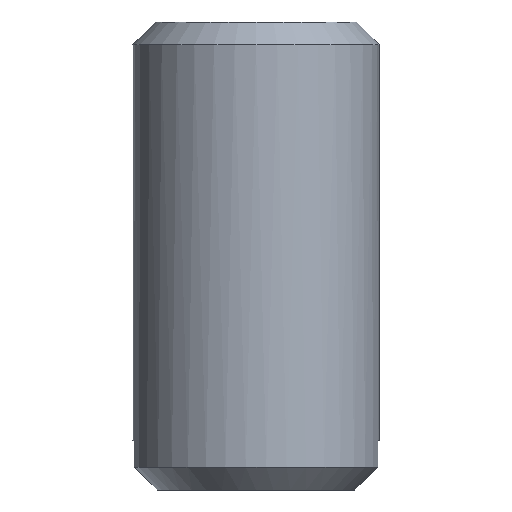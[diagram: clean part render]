
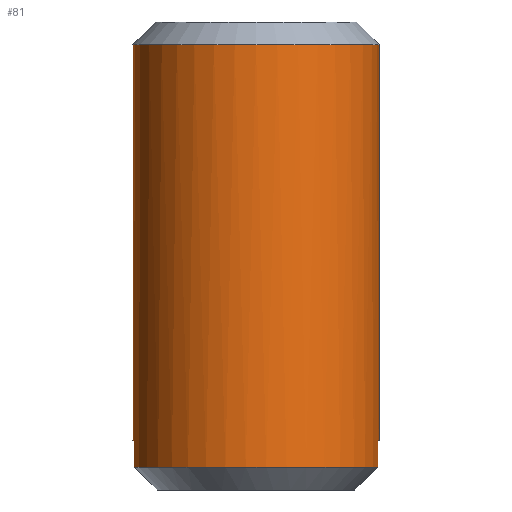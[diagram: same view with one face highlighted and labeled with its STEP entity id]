
A CAD part, front view. The second image highlights one B-rep face of the part: STEP entity #81.
In plain terms, the highlighted cylindrical face has radius 5 mm (diameter 10 mm), a full revolution.
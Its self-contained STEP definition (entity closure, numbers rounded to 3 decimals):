
#81 = ADVANCED_FACE( '', ( #104, #105 ), #106, .T. );
#104 = FACE_OUTER_BOUND( '', #133, .T. );
#105 = FACE_OUTER_BOUND( '', #134, .T. );
#106 = CYLINDRICAL_SURFACE( '', #135, 5. );
#133 = EDGE_LOOP( '', ( #184 ) );
#134 = EDGE_LOOP( '', ( #185, #186, #187, #188, #189, #190, #191, #192 ) );
#135 = AXIS2_PLACEMENT_3D( '', #193, #194, #195 );
#184 = ORIENTED_EDGE( '', *, *, #243, .F. );
#185 = ORIENTED_EDGE( '', *, *, #236, .F. );
#186 = ORIENTED_EDGE( '', *, *, #244, .T. );
#187 = ORIENTED_EDGE( '', *, *, #228, .F. );
#188 = ORIENTED_EDGE( '', *, *, #245, .T. );
#189 = ORIENTED_EDGE( '', *, *, #230, .F. );
#190 = ORIENTED_EDGE( '', *, *, #246, .T. );
#191 = ORIENTED_EDGE( '', *, *, #234, .F. );
#192 = ORIENTED_EDGE( '', *, *, #247, .T. );
#193 = CARTESIAN_POINT( '', ( 0., 0., 0. ) );
#194 = DIRECTION( '', ( 0., 0., -1. ) );
#195 = DIRECTION( '', ( 1., 0., 0. ) );
#228 = EDGE_CURVE( '', #251, #253, #254, .T. );
#230 = EDGE_CURVE( '', #255, #257, #258, .F. );
#234 = EDGE_CURVE( '', #263, #265, #266, .T. );
#236 = EDGE_CURVE( '', #267, #269, #270, .F. );
#243 = EDGE_CURVE( '', #280, #280, #281, .T. );
#244 = EDGE_CURVE( '', #267, #253, #282, .T. );
#245 = EDGE_CURVE( '', #251, #257, #283, .T. );
#246 = EDGE_CURVE( '', #255, #265, #284, .T. );
#247 = EDGE_CURVE( '', #263, #269, #285, .T. );
#251 = VERTEX_POINT( '', #289 );
#253 = VERTEX_POINT( '', #294 );
#254 = LINE( '', #295, #296 );
#255 = VERTEX_POINT( '', #297 );
#257 = VERTEX_POINT( '', #300 );
#258 = LINE( '', #301, #302 );
#263 = VERTEX_POINT( '', #311 );
#265 = VERTEX_POINT( '', #316 );
#266 = LINE( '', #317, #318 );
#267 = VERTEX_POINT( '', #319 );
#269 = VERTEX_POINT( '', #322 );
#270 = LINE( '', #323, #324 );
#280 = VERTEX_POINT( '', #338 );
#281 = CIRCLE( '', #339, 5. );
#282 = CIRCLE( '', #340, 5. );
#283 = CIRCLE( '', #341, 5. );
#284 = CIRCLE( '', #342, 5. );
#285 = CIRCLE( '', #343, 5. );
#289 = CARTESIAN_POINT( '', ( -4.943, -0.75, -18.08 ) );
#294 = CARTESIAN_POINT( '', ( -4.943, -0.75, -17. ) );
#295 = CARTESIAN_POINT( '', ( -4.943, -0.75, 0. ) );
#296 = VECTOR( '', #346, 1000. );
#297 = CARTESIAN_POINT( '', ( 4.943, -0.75, -17. ) );
#300 = CARTESIAN_POINT( '', ( 4.943, -0.75, -18.08 ) );
#301 = CARTESIAN_POINT( '', ( 4.943, -0.75, 0. ) );
#302 = VECTOR( '', #348, 1000. );
#311 = CARTESIAN_POINT( '', ( 4.943, 0.75, -18.08 ) );
#316 = CARTESIAN_POINT( '', ( 4.943, 0.75, -17. ) );
#317 = CARTESIAN_POINT( '', ( 4.943, 0.75, 0. ) );
#318 = VECTOR( '', #350, 1000. );
#319 = CARTESIAN_POINT( '', ( -4.943, 0.75, -17. ) );
#322 = CARTESIAN_POINT( '', ( -4.943, 0.75, -18.08 ) );
#323 = CARTESIAN_POINT( '', ( -4.943, 0.75, 0. ) );
#324 = VECTOR( '', #352, 1000. );
#338 = CARTESIAN_POINT( '', ( 5., 0., -0.92 ) );
#339 = AXIS2_PLACEMENT_3D( '', #363, #364, #365 );
#340 = AXIS2_PLACEMENT_3D( '', #366, #367, #368 );
#341 = AXIS2_PLACEMENT_3D( '', #369, #370, #371 );
#342 = AXIS2_PLACEMENT_3D( '', #372, #373, #374 );
#343 = AXIS2_PLACEMENT_3D( '', #375, #376, #377 );
#346 = DIRECTION( '', ( 0., 0., 1. ) );
#348 = DIRECTION( '', ( 0., 0., 1. ) );
#350 = DIRECTION( '', ( 0., 0., 1. ) );
#352 = DIRECTION( '', ( 0., 0., 1. ) );
#363 = CARTESIAN_POINT( '', ( 0., 0., -0.92 ) );
#364 = DIRECTION( '', ( 0., 0., 1. ) );
#365 = DIRECTION( '', ( 1., 0., 0. ) );
#366 = CARTESIAN_POINT( '', ( 0., 0., -17. ) );
#367 = DIRECTION( '', ( 0., 0., 1. ) );
#368 = DIRECTION( '', ( 1., 0., 0. ) );
#369 = CARTESIAN_POINT( '', ( 0., 0., -18.08 ) );
#370 = DIRECTION( '', ( 0., 0., 1. ) );
#371 = DIRECTION( '', ( 1., 0., 0. ) );
#372 = CARTESIAN_POINT( '', ( 0., 0., -17. ) );
#373 = DIRECTION( '', ( 0., 0., 1. ) );
#374 = DIRECTION( '', ( 1., 0., 0. ) );
#375 = CARTESIAN_POINT( '', ( 0., 0., -18.08 ) );
#376 = DIRECTION( '', ( 0., 0., 1. ) );
#377 = DIRECTION( '', ( 1., 0., 0. ) );
